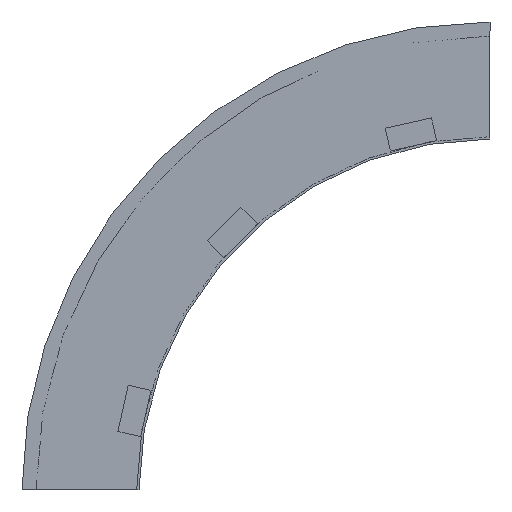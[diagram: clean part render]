
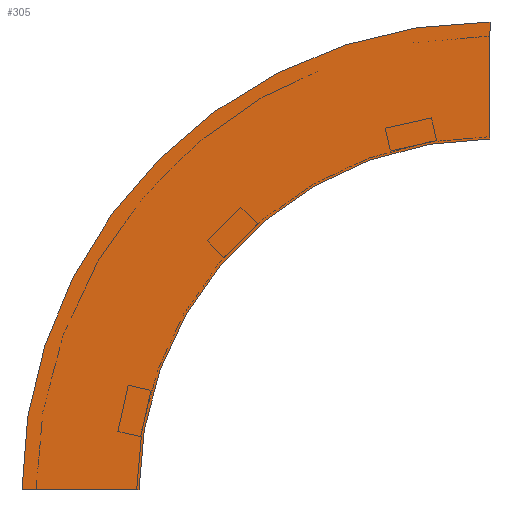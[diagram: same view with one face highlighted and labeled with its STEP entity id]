
A CAD part, left-side view. The second image highlights one B-rep face of the part: STEP entity #305.
In plain terms, the highlighted planar face has unit normal (-1, 0, 0) as drawn and (1, 0, 0) by its records, which use the part's own axes.
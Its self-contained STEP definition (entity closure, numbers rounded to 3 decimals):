
#12 = CARTESIAN_POINT ( 'NONE',  ( 0., 0., 0. ) ) ;
#14 = EDGE_CURVE ( 'NONE', #209, #61, #558, .T. ) ;
#29 = ORIENTED_EDGE ( 'NONE', *, *, #52, .T. ) ;
#32 = VECTOR ( 'NONE', #548, 1000. ) ;
#35 = DIRECTION ( 'NONE',  ( 0., 1., 0. ) ) ;
#39 = CARTESIAN_POINT ( 'NONE',  ( 0., -300., 0. ) ) ;
#52 = EDGE_CURVE ( 'NONE', #209, #147, #93, .T. ) ;
#61 = VERTEX_POINT ( 'NONE', #553 ) ;
#75 = ORIENTED_EDGE ( 'NONE', *, *, #139, .F. ) ;
#80 = CARTESIAN_POINT ( 'NONE',  ( 0., 0., 0. ) ) ;
#93 = LINE ( 'NONE', #275, #425 ) ;
#139 = EDGE_CURVE ( 'NONE', #61, #570, #357, .T. ) ;
#147 = VERTEX_POINT ( 'NONE', #250 ) ;
#174 = CARTESIAN_POINT ( 'NONE',  ( 0., -300., 0. ) ) ;
#180 = CARTESIAN_POINT ( 'NONE',  ( 0., -300., 300. ) ) ;
#209 = VERTEX_POINT ( 'NONE', #80 ) ;
#218 = DIRECTION ( 'NONE',  ( 1., 0., 0. ) ) ;
#237 = PLANE ( 'NONE',  #509 ) ;
#250 = CARTESIAN_POINT ( 'NONE',  ( 0., 100., 0. ) ) ;
#275 = CARTESIAN_POINT ( 'NONE',  ( 0., 0., 0. ) ) ;
#279 = EDGE_CURVE ( 'NONE', #147, #570, #535, .T. ) ;
#297 = ORIENTED_EDGE ( 'NONE', *, *, #279, .T. ) ;
#301 = EDGE_LOOP ( 'NONE', ( #297, #75, #514, #29 ) ) ;
#305 = ADVANCED_FACE ( 'NONE', ( #358 ), #237, .T. ) ;
#311 = AXIS2_PLACEMENT_3D ( 'NONE', #174, #218, #35 ) ;
#313 = AXIS2_PLACEMENT_3D ( 'NONE', #39, #377, #341 ) ;
#341 = DIRECTION ( 'NONE',  ( 0., 1., 0. ) ) ;
#357 = LINE ( 'NONE', #180, #32 ) ;
#358 = FACE_OUTER_BOUND ( 'NONE', #301, .T. ) ;
#360 = CARTESIAN_POINT ( 'NONE',  ( 0., -300., 400. ) ) ;
#370 = DIRECTION ( 'NONE',  ( 0., 0., -1. ) ) ;
#377 = DIRECTION ( 'NONE',  ( 1., 0., 0. ) ) ;
#425 = VECTOR ( 'NONE', #556, 1000. ) ;
#505 = DIRECTION ( 'NONE',  ( 1., 0., 0. ) ) ;
#509 = AXIS2_PLACEMENT_3D ( 'NONE', #12, #505, #370 ) ;
#514 = ORIENTED_EDGE ( 'NONE', *, *, #14, .F. ) ;
#535 = CIRCLE ( 'NONE', #311, 400. ) ;
#548 = DIRECTION ( 'NONE',  ( 0., 0., 1. ) ) ;
#553 = CARTESIAN_POINT ( 'NONE',  ( 0., -300., 300. ) ) ;
#556 = DIRECTION ( 'NONE',  ( 0., 1., 0. ) ) ;
#558 = CIRCLE ( 'NONE', #313, 300. ) ;
#570 = VERTEX_POINT ( 'NONE', #360 ) ;
